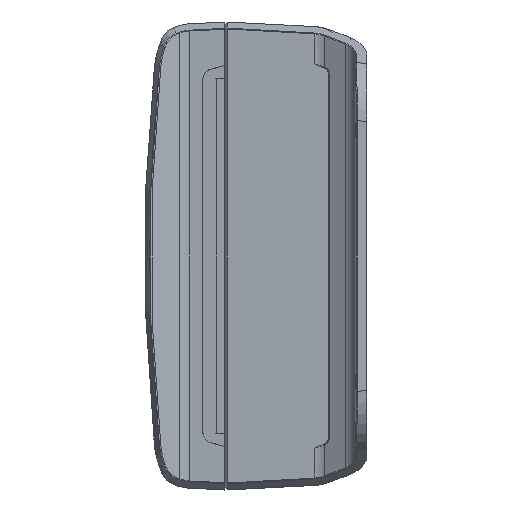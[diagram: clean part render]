
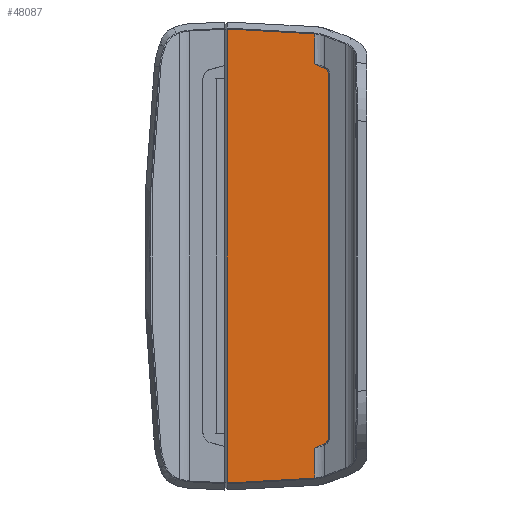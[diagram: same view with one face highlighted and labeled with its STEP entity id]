
A CAD part, left-side view. The second image highlights one B-rep face of the part: STEP entity #48087.
In plain terms, the highlighted planar face has unit normal (-1, 0, 0).
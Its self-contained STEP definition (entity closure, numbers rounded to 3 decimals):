
#1330=ELLIPSE('',#51546,2.003,2.);
#1331=ELLIPSE('',#51547,2.003,2.);
#2538=B_SPLINE_CURVE_WITH_KNOTS('',3,(#73605,#73606,#73607,#73608,#73609,
#73610,#73611,#73612,#73613,#73614),.UNSPECIFIED.,.F.,.F.,(4,2,2,2,4),(-0.249,
-0.248,-0.126,-0.057,0.),
 .UNSPECIFIED.);
#2539=B_SPLINE_CURVE_WITH_KNOTS('',3,(#73626,#73627,#73628,#73629,#73630,
#73631,#73632,#73633,#73634,#73635),.UNSPECIFIED.,.F.,.F.,(4,2,2,2,4),(-0.27,
-0.208,-0.132,0.,0.001),
 .UNSPECIFIED.);
#3932=PLANE('',#51545);
#5148=LINE('',#73531,#8213);
#5177=LINE('',#73601,#8242);
#5178=LINE('',#73603,#8243);
#5179=LINE('',#73616,#8244);
#5180=LINE('',#73620,#8245);
#5181=LINE('',#73624,#8246);
#5182=LINE('',#73637,#8247);
#5183=LINE('',#73638,#8248);
#8213=VECTOR('',#57803,10.);
#8242=VECTOR('',#57860,10.);
#8243=VECTOR('',#57861,10.);
#8244=VECTOR('',#57862,10.);
#8245=VECTOR('',#57865,10.);
#8246=VECTOR('',#57868,10.);
#8247=VECTOR('',#57869,10.);
#8248=VECTOR('',#57870,10.);
#11935=FACE_OUTER_BOUND('',#15152,.T.);
#15152=EDGE_LOOP('',(#33908,#33909,#33910,#33911,#33912,#33913,#33914,#33915,
#33916,#33917,#33918,#33919));
#20994=VERTEX_POINT('',#73521);
#20998=VERTEX_POINT('',#73529);
#21025=VERTEX_POINT('',#73600);
#21026=VERTEX_POINT('',#73602);
#21027=VERTEX_POINT('',#73604);
#21028=VERTEX_POINT('',#73615);
#21029=VERTEX_POINT('',#73617);
#21030=VERTEX_POINT('',#73619);
#21031=VERTEX_POINT('',#73621);
#21032=VERTEX_POINT('',#73623);
#21033=VERTEX_POINT('',#73625);
#21034=VERTEX_POINT('',#73636);
#25748=EDGE_CURVE('',#20994,#20998,#5148,.T.);
#25783=EDGE_CURVE('',#21025,#20998,#5177,.T.);
#25784=EDGE_CURVE('',#21026,#21025,#5178,.T.);
#25785=EDGE_CURVE('',#21027,#21026,#2538,.F.);
#25786=EDGE_CURVE('',#21027,#21028,#5179,.T.);
#25787=EDGE_CURVE('',#21028,#21029,#1330,.T.);
#25788=EDGE_CURVE('',#21029,#21030,#5180,.T.);
#25789=EDGE_CURVE('',#21030,#21031,#1331,.T.);
#25790=EDGE_CURVE('',#21031,#21032,#5181,.T.);
#25791=EDGE_CURVE('',#21033,#21032,#2539,.F.);
#25792=EDGE_CURVE('',#21034,#21033,#5182,.T.);
#25793=EDGE_CURVE('',#20994,#21034,#5183,.T.);
#33908=ORIENTED_EDGE('',*,*,#25748,.T.);
#33909=ORIENTED_EDGE('',*,*,#25783,.F.);
#33910=ORIENTED_EDGE('',*,*,#25784,.F.);
#33911=ORIENTED_EDGE('',*,*,#25785,.F.);
#33912=ORIENTED_EDGE('',*,*,#25786,.T.);
#33913=ORIENTED_EDGE('',*,*,#25787,.T.);
#33914=ORIENTED_EDGE('',*,*,#25788,.T.);
#33915=ORIENTED_EDGE('',*,*,#25789,.T.);
#33916=ORIENTED_EDGE('',*,*,#25790,.T.);
#33917=ORIENTED_EDGE('',*,*,#25791,.F.);
#33918=ORIENTED_EDGE('',*,*,#25792,.F.);
#33919=ORIENTED_EDGE('',*,*,#25793,.F.);
#48087=ADVANCED_FACE('',(#11935),#3932,.T.);
#51545=AXIS2_PLACEMENT_3D('',#73599,#57858,#57859);
#51546=AXIS2_PLACEMENT_3D('',#73618,#57863,#57864);
#51547=AXIS2_PLACEMENT_3D('',#73622,#57866,#57867);
#57803=DIRECTION('',(0.,0.,-1.));
#57858=DIRECTION('center_axis',(-1.,0.,0.));
#57859=DIRECTION('ref_axis',(0.,-1.,0.));
#57860=DIRECTION('',(0.,0.998,-0.056));
#57861=DIRECTION('',(0.,0.,-1.));
#57862=DIRECTION('',(0.,-0.966,0.259));
#57863=DIRECTION('center_axis',(-1.,0.,0.));
#57864=DIRECTION('ref_axis',(0.,-0.793,-0.609));
#57865=DIRECTION('',(0.,0.,1.));
#57866=DIRECTION('center_axis',(-1.,0.,0.));
#57867=DIRECTION('ref_axis',(0.,-0.793,0.609));
#57868=DIRECTION('',(0.,0.966,0.259));
#57869=DIRECTION('',(0.,0.,-1.));
#57870=DIRECTION('',(0.,-0.998,-0.056));
#73521=CARTESIAN_POINT('',(-105.,41.7,67.912));
#73529=CARTESIAN_POINT('',(-105.,41.7,-67.912));
#73531=CARTESIAN_POINT('',(-105.,41.7,-34.045));
#73599=CARTESIAN_POINT('Origin',(-105.,53.,0.));
#73600=CARTESIAN_POINT('',(-105.,15.608,-66.439));
#73601=CARTESIAN_POINT('',(-105.,41.323,-67.891));
#73602=CARTESIAN_POINT('',(-105.,15.608,-57.496));
#73603=CARTESIAN_POINT('',(-105.,15.608,0.));
#73604=CARTESIAN_POINT('',(-105.,13.29,-56.379));
#73605=CARTESIAN_POINT('Ctrl Pts',(-105.,15.608,-57.496));
#73606=CARTESIAN_POINT('Ctrl Pts',(-105.,15.605,-57.494));
#73607=CARTESIAN_POINT('Ctrl Pts',(-105.,15.603,-57.493));
#73608=CARTESIAN_POINT('Ctrl Pts',(-105.,15.221,-57.269));
#73609=CARTESIAN_POINT('Ctrl Pts',(-105.,14.845,-57.048));
#73610=CARTESIAN_POINT('Ctrl Pts',(-105.,14.26,-56.749));
#73611=CARTESIAN_POINT('Ctrl Pts',(-105.,14.049,-56.651));
#73612=CARTESIAN_POINT('Ctrl Pts',(-105.,13.658,-56.493));
#73613=CARTESIAN_POINT('Ctrl Pts',(-105.,13.473,-56.428));
#73614=CARTESIAN_POINT('Ctrl Pts',(-105.,13.29,-56.379));
#73615=CARTESIAN_POINT('',(-105.,12.981,-56.296));
#73616=CARTESIAN_POINT('',(-105.,15.608,-57.));
#73617=CARTESIAN_POINT('',(-105.,11.5,-54.366));
#73618=CARTESIAN_POINT('Origin',(-105.,13.502,-54.363));
#73619=CARTESIAN_POINT('',(-105.,11.5,54.366));
#73620=CARTESIAN_POINT('',(-105.,11.5,-55.899));
#73621=CARTESIAN_POINT('',(-105.,12.981,56.296));
#73622=CARTESIAN_POINT('Origin',(-105.,13.502,54.363));
#73623=CARTESIAN_POINT('',(-105.,13.29,56.379));
#73624=CARTESIAN_POINT('',(-105.,11.5,55.899));
#73625=CARTESIAN_POINT('',(-105.,15.608,57.496));
#73626=CARTESIAN_POINT('Ctrl Pts',(-105.,13.29,56.379));
#73627=CARTESIAN_POINT('Ctrl Pts',(-105.,13.474,56.428));
#73628=CARTESIAN_POINT('Ctrl Pts',(-105.,13.659,56.494));
#73629=CARTESIAN_POINT('Ctrl Pts',(-105.,14.05,56.651));
#73630=CARTESIAN_POINT('Ctrl Pts',(-105.,14.261,56.75));
#73631=CARTESIAN_POINT('Ctrl Pts',(-105.,14.846,57.048));
#73632=CARTESIAN_POINT('Ctrl Pts',(-105.,15.221,57.269));
#73633=CARTESIAN_POINT('Ctrl Pts',(-105.,15.603,57.493));
#73634=CARTESIAN_POINT('Ctrl Pts',(-105.,15.605,57.494));
#73635=CARTESIAN_POINT('Ctrl Pts',(-105.,15.608,57.496));
#73636=CARTESIAN_POINT('',(-105.,15.608,66.439));
#73637=CARTESIAN_POINT('',(-105.,15.608,0.));
#73638=CARTESIAN_POINT('',(-105.,41.323,67.891));
